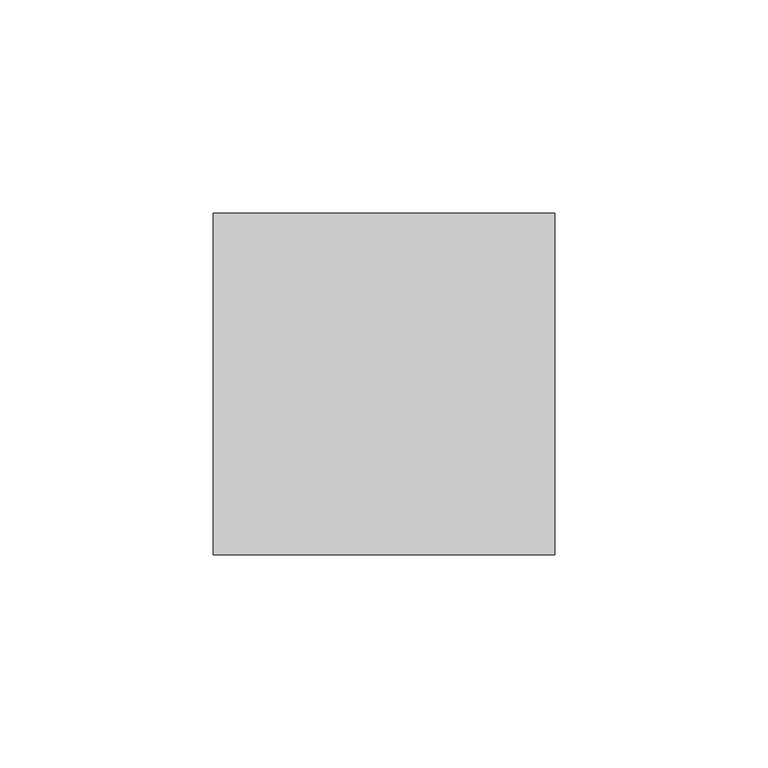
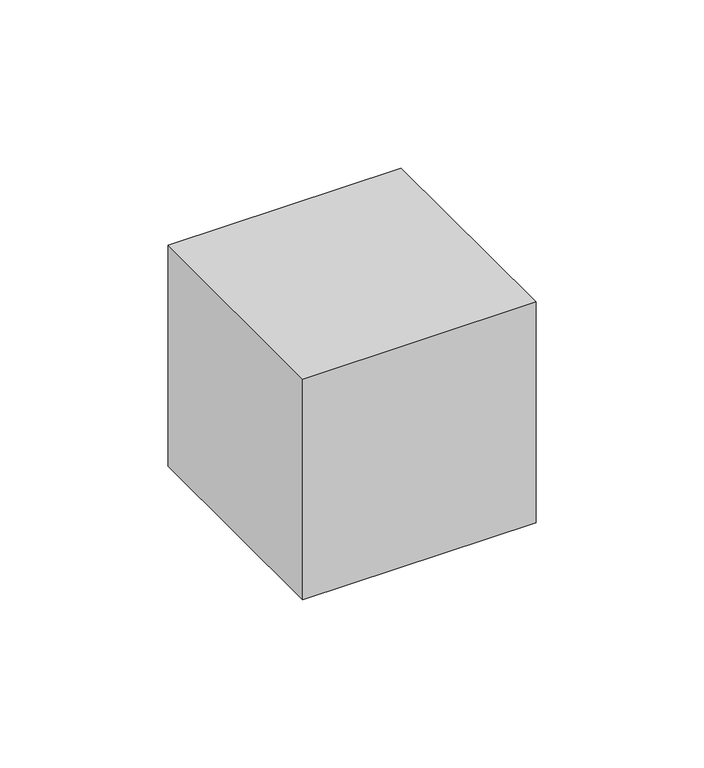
"""IFC4 building model written with IfcOpenShell, lengths in millimetres: proxy geometry, Schwachstromdose : Schwachstromdose."""

from ifc_helpers import new_model, si_unit, frame, origin, place, context, project, spatial, polyline, outline, extrude, source, transform, mapped, element, save


def electrical_equipment_5f63efc2(model_context):
    return source(origin(), model_context, "Body", "SweptSolid", [
        extrude(outline(polyline([(40.0, 40.0), (40.0, -40.0), (-40.0, -40.0), (-40.0, 40.0), (40.0, 40.0)])), frame((0.0, 0.0, 200.0), z_axis=(0.0, 0.0, 1.0), x_axis=(1.0, 0.0, 0.0)), (0.0, 0.0, 1.0), 80.0),
    ])


if __name__ == "__main__":
    model = new_model("IFC4")
    model_context = context("Model", 3, world=origin())
    ifc_project = project(units=[si_unit("LENGTHUNIT", "METRE", prefix="MILLI")], contexts=[model_context])
    site = spatial("IfcSite", under=ifc_project)
    building = spatial("IfcBuilding", under=site)
    placement = place(None, origin())
    electrical_equipment_shape = electrical_equipment_5f63efc2(model_context)
    element("IfcBuildingElementProxy", 1, Name="Schwachstromdose : Schwachstromdose", ObjectType="Schwachstromdose : Schwachstromdose", at=placement, inside=building, context=model_context, shape_type="MappedRepresentation", body=[
        mapped(electrical_equipment_shape, transform((0.0, 0.0, 0.0), x_axis=(1.0, 0.0, 0.0), y_axis=(0.0, 1.0, 0.0), z_axis=(0.0, 0.0, 1.0))),
    ])
    save(model, "model.ifc")
